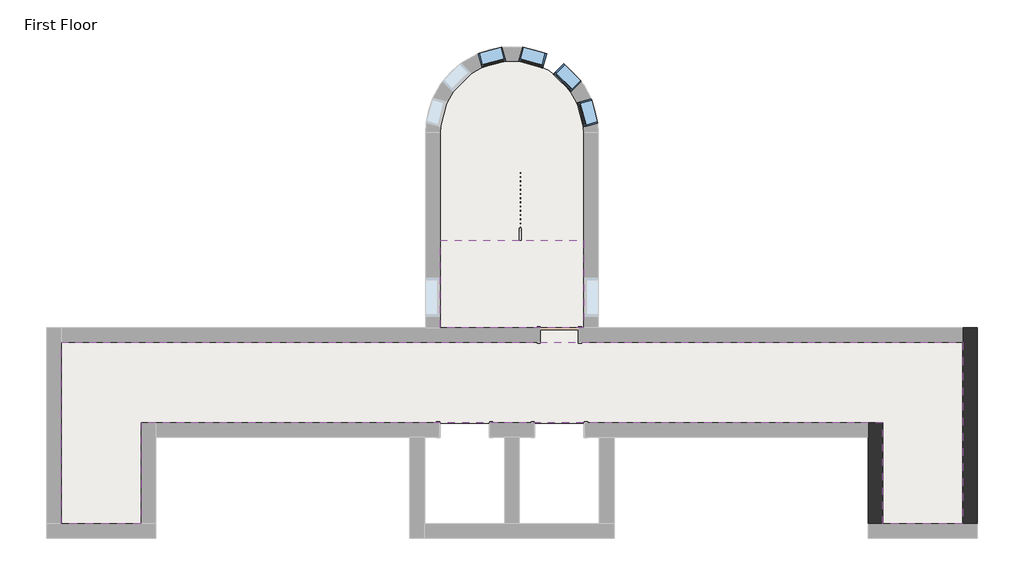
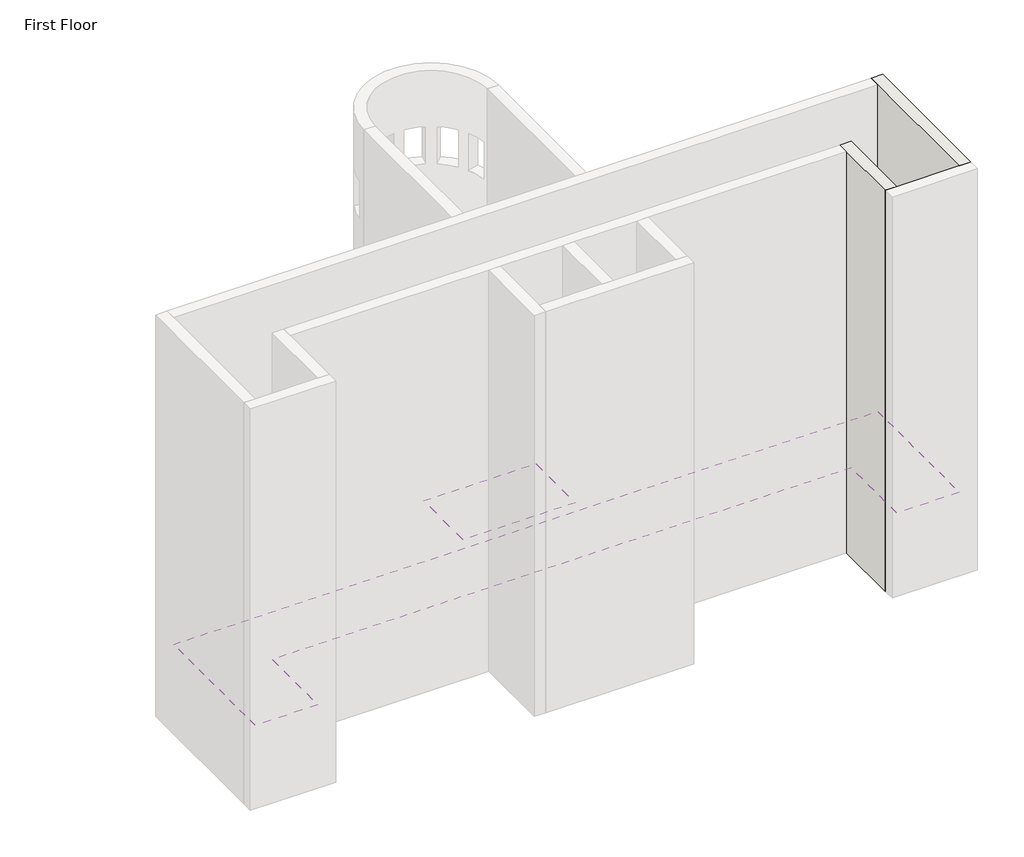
# One storey, part 3 of 5: 4 windows, 2 coverings, 2 walls, 1 slab.
"""IFC4 building model written with IfcOpenShell, lengths in millimetres."""

import ifcopenshell
import ifcopenshell.guid

model = None  # the IFC model being written
_history = None  # IfcOwnerHistory: only IFC2X3 demands one
_inside = {}  # id of a spatial element -> (the spatial element, [elements in it])
_under = {}  # id of a project, library or spatial element -> (it, [spatial elements below it])
_declared = {}  # id of a project -> (the project, [libraries it declares])
_typed = {}  # id of a type object -> (the type object, [elements of that type])
_made_of = {}  # id of a material, layer set ... -> (it, [elements and type objects made of it])


def new_model(schema):
    """Start an empty IFC model of exactly this schema.

    Asked for "IFC4X3", IfcOpenShell would pick the latest addendum, in which some entities
    have other attributes; the version numbers below select the first issue.
    IFC2X3 requires an IfcOwnerHistory on every rooted entity: one is made here for all.
    """
    global model, _history
    if schema == "IFC4X3":
        model = ifcopenshell.file(schema_version=(4, 3, 0, 0))
    else:
        model = ifcopenshell.file(schema=schema)
    _inside.clear()
    _under.clear()
    _declared.clear()
    _typed.clear()
    _made_of.clear()
    _history = None
    if model.schema == "IFC2X3":
        org = make("IfcOrganization", Name="unknown")
        user = make(
            "IfcPersonAndOrganization",
            ThePerson=make("IfcPerson", FamilyName="unknown"),
            TheOrganization=org,
        )
        app = make(
            "IfcApplication",
            ApplicationDeveloper=org,
            Version="unknown",
            ApplicationFullName="unknown",
            ApplicationIdentifier="unknown",
        )
        _history = make(
            "IfcOwnerHistory",
            OwningUser=user,
            OwningApplication=app,
            ChangeAction="ADDED",
            CreationDate=0,
        )
    return model


def make(cls, **values):
    """One entity of the class cls with the attributes given. An attribute that is None is left unset."""
    return model.create_entity(
        cls, **{name: value for name, value in values.items() if value is not None}
    )


def rooted(cls, **values):
    """An entity with a GlobalId (a new one), such as an element, a storey or a relation."""
    return make(cls, GlobalId=ifcopenshell.guid.new(), OwnerHistory=_history, **values)


def si_unit(unit_type, name, prefix=None):
    """IfcSIUnit, for example si_unit("LENGTHUNIT", "METRE", prefix="MILLI")."""
    return make("IfcSIUnit", UnitType=unit_type, Prefix=prefix, Name=name)


def assignment(units):
    """IfcUnitAssignment: the units of a project."""
    return None if units is None else make("IfcUnitAssignment", Units=units)


def point(xyz):
    """IfcCartesianPoint."""
    return None if xyz is None else make("IfcCartesianPoint", Coordinates=xyz)


def direction(xyz):
    """IfcDirection."""
    return None if xyz is None else make("IfcDirection", DirectionRatios=xyz)


def frame(location, z_axis=None, x_axis=None):
    """IfcAxis2Placement3D, a coordinate frame: its origin and axes. An axis left out is left unset."""
    return make(
        "IfcAxis2Placement3D",
        Location=point(location),
        Axis=direction(z_axis),
        RefDirection=direction(x_axis),
    )


def frame_2d(location, x_axis=None):
    """IfcAxis2Placement2D, a coordinate frame in the plane: its origin and x axis."""
    return make(
        "IfcAxis2Placement2D", Location=point(location), RefDirection=direction(x_axis)
    )


def origin():
    """The frame at (0, 0, 0) with its axes left unset."""
    return frame((0.0, 0.0, 0.0))


def place(relative_to, where):
    """IfcLocalPlacement: puts the frame where relative to a parent placement (None: the world)."""
    return make(
        "IfcLocalPlacement", PlacementRelTo=relative_to, RelativePlacement=where
    )


def context(
    kind, dimensions, precision=None, world=None, true_north=None, identifier=None
):
    """IfcGeometricRepresentationContext, for example the 3D "Model" context."""
    return make(
        "IfcGeometricRepresentationContext",
        ContextIdentifier=identifier,
        ContextType=kind,
        CoordinateSpaceDimension=dimensions,
        Precision=precision,
        WorldCoordinateSystem=world,
        TrueNorth=true_north,
    )


def project(units=None, contexts=None):
    """IfcProject with its units and contexts."""
    return rooted(
        "IfcProject",
        Name="project",
        RepresentationContexts=contexts,
        UnitsInContext=assignment(units),
    )


def spatial(cls, under=None, at=None, **own):
    """A site, building, storey or space (cls), placed at a placement, below another one or the project."""
    s = rooted(cls, ObjectPlacement=at, **own)
    if under is not None:
        _under.setdefault(under.id(), (under, []))[1].append(s)
    return s


def polyline(points):
    """IfcPolyline through the points."""
    return make("IfcPolyline", Points=[point(p) for p in points])


def circle_curve(where, radius):
    """IfcCircle in the frame where."""
    return make("IfcCircle", Position=where, Radius=radius)


def trimmed(basis, trim1, trim2, sense, master):
    """IfcTrimmedCurve: the piece of a basis curve between two trims."""
    return make(
        "IfcTrimmedCurve",
        BasisCurve=basis,
        Trim1=trim1,
        Trim2=trim2,
        SenseAgreement=sense,
        MasterRepresentation=master,
    )


def segment(curve, same_sense, transition):
    """IfcCompositeCurveSegment."""
    return make(
        "IfcCompositeCurveSegment",
        Transition=transition,
        SameSense=same_sense,
        ParentCurve=curve,
    )


def composite_curve(segments, self_intersect=None):
    """IfcCompositeCurve: segments joined end to end."""
    return make("IfcCompositeCurve", Segments=segments, SelfIntersect=self_intersect)


def outline(outer, holes=None, kind="AREA"):
    """IfcArbitraryClosedProfileDef: a profile drawn as a closed curve; with holes, ...WithVoids."""
    if holes is None:
        return make("IfcArbitraryClosedProfileDef", ProfileType=kind, OuterCurve=outer)
    return make(
        "IfcArbitraryProfileDefWithVoids",
        ProfileType=kind,
        OuterCurve=outer,
        InnerCurves=holes,
    )


def extrude(swept, where, along, depth):
    """IfcExtrudedAreaSolid: the profile swept, set in the frame where, extruded along a direction by depth."""
    return make(
        "IfcExtrudedAreaSolid",
        SweptArea=swept,
        Position=where,
        ExtrudedDirection=direction(along),
        Depth=depth,
    )


def faces_of(points, faces, orient=None, outer=None):
    """IfcFace entities. A face is a list of loops; a loop is a list of indices into points, from 0.

    orient and outer hold one flag for each loop. By default every Orientation is true, the
    first loop of a face is its IfcFaceOuterBound and the others are IfcFaceBound.
    """
    made = []
    for i, loops in enumerate(faces):
        bounds = []
        for j, loop in enumerate(loops):
            is_outer = j == 0 if outer is None else outer[i][j]
            bounds.append(
                make(
                    "IfcFaceOuterBound" if is_outer else "IfcFaceBound",
                    Bound=make("IfcPolyLoop", Polygon=[points[k] for k in loop]),
                    Orientation=True if orient is None else orient[i][j],
                )
            )
        made.append(make("IfcFace", Bounds=bounds))
    return made


def faceted_brep(points, faces, orient=None, outer=None, voids=None):
    """IfcFacetedBrep: a solid bounded by flat faces; with voids (closed shells), ...WithVoids."""
    shared = [point(p) for p in points]
    hull = make("IfcClosedShell", CfsFaces=faces_of(shared, faces, orient, outer))
    if voids is None:
        return make("IfcFacetedBrep", Outer=hull)
    return make(
        "IfcFacetedBrepWithVoids",
        Outer=hull,
        Voids=[
            make(cls, CfsFaces=faces_of(shared, fs, o, b)) for cls, fs, o, b in voids
        ],
    )


def shape(context_of_items, identifier, shape_type, items):
    """IfcShapeRepresentation: the items that make up one representation, for example the "Body"."""
    return make(
        "IfcShapeRepresentation",
        ContextOfItems=context_of_items,
        RepresentationIdentifier=identifier,
        RepresentationType=shape_type,
        Items=items,
    )


def source(mapping_origin, context_of_items, identifier, shape_type, items):
    """IfcRepresentationMap: a shape defined once, which mapped items show again and again."""
    return make(
        "IfcRepresentationMap",
        MappingOrigin=mapping_origin,
        MappedRepresentation=shape(context_of_items, identifier, shape_type, items),
    )


def transform(
    local_origin,
    x_axis=None,
    y_axis=None,
    z_axis=None,
    scale=None,
    scale2=None,
    scale3=None,
    uniform=True,
):
    """IfcCartesianTransformationOperator3D, or its non-uniform kind. x_axis, y_axis, z_axis: its Axis1, 2, 3."""
    if uniform:
        return make(
            "IfcCartesianTransformationOperator3D",
            Axis1=direction(x_axis),
            Axis2=direction(y_axis),
            LocalOrigin=point(local_origin),
            Scale=scale,
            Axis3=direction(z_axis),
        )
    return make(
        "IfcCartesianTransformationOperator3DnonUniform",
        Axis1=direction(x_axis),
        Axis2=direction(y_axis),
        LocalOrigin=point(local_origin),
        Scale=scale,
        Axis3=direction(z_axis),
        Scale2=scale2,
        Scale3=scale3,
    )


def mapped(mapping_source, mapping_target):
    """IfcMappedItem: shows the shape of a source again, moved by a transform."""
    return make(
        "IfcMappedItem", MappingSource=mapping_source, MappingTarget=mapping_target
    )


def made_of(thing, what):
    """Note that an element or type object is made of a material, layer set ...; save() writes the relation."""
    if what is not None:
        _made_of.setdefault(what.id(), (what, []))[1].append(thing)
    return thing


def element(
    cls,
    number,
    at=None,
    inside=None,
    cuts=None,
    type_object=None,
    material=None,
    context=None,
    identifier="Body",
    shape_type=None,
    held_by="IfcProductDefinitionShape",
    body=None,
    shapes=None,
    **own,
):
    """One element of the class cls, such as IfcWall. Its Tag is "e" and its number.

    at: its placement. inside: the storey or other place that contains it. cuts: it is an
    opening in that element (IfcRelVoidsElement). A single representation is given by context,
    identifier, shape_type and body (its items); several are given by shapes. held_by: the class
    of the entity that holds the representations. save() writes the other relations.
    """
    e = rooted(cls, Tag="e%d" % number, ObjectPlacement=at, **own)
    if body is not None:
        shapes = [shape(context, identifier, shape_type, body)]
    if shapes is not None:
        e.Representation = make(held_by, Representations=shapes)
    if inside is not None:
        _inside.setdefault(inside.id(), (inside, []))[1].append(e)
    if cuts is not None:
        rooted(
            "IfcRelVoidsElement", RelatingBuildingElement=cuts, RelatedOpeningElement=e
        )
    if type_object is not None:
        _typed.setdefault(type_object.id(), (type_object, []))[1].append(e)
    return made_of(e, material)


def aggregate(whole, parts):
    """IfcRelAggregates: a whole, such as a stair, and the parts it consists of."""
    return rooted("IfcRelAggregates", RelatingObject=whole, RelatedObjects=parts)


def save(model, path):
    """Write the relations noted so far, then the file.

    IfcRelAggregates (storeys below a building ...), IfcRelContainedInSpatialStructure (elements
    in a storey), IfcRelDefinesByType, IfcRelAssociatesMaterial and IfcRelDeclares: one each for
    every whole, place, type object, material and project.
    """
    for whole, parts in _under.values():
        aggregate(whole, parts)
    for where, things in _inside.values():
        rooted(
            "IfcRelContainedInSpatialStructure",
            RelatedElements=things,
            RelatingStructure=where,
        )
    for kind, things in _typed.values():
        rooted("IfcRelDefinesByType", RelatedObjects=things, RelatingType=kind)
    for what, things in _made_of.values():
        rooted("IfcRelAssociatesMaterial", RelatedObjects=things, RelatingMaterial=what)
    for by, libraries in _declared.values():
        rooted("IfcRelDeclares", RelatingContext=by, RelatedDefinitions=libraries)
    model.write(path)


def window_60baf983(model_context):
    return source(origin(), model_context, "Body", "SweptSolid", [
        extrude(outline(polyline([(203.2, 128.5875), (-279.4, 128.5875), (-279.4, 141.2875), (203.2, 141.2875), (203.2, 128.5875)])), frame((0.0, 0.0, 977.9), z_axis=(0.0, 0.0, 1.0), x_axis=(1.0, 0.0, 0.0)), (0.0, 0.0, 1.0), 1092.2),
        extrude(outline(polyline([(2114.55, -323.85), (933.45, -323.85), (933.45, 247.65), (2114.55, 247.65), (2114.55, -323.85)]), holes=[polyline([(2070.1, -279.4), (2070.1, 203.2), (977.9, 203.2), (977.9, -279.4), (2070.1, -279.4)])]), frame((0.0, 112.7125, 0.0), z_axis=(0.0, 1.0, 0.0), x_axis=(0.0, 0.0, 1.0)), (0.0, 0.0, 1.0), 44.45),
        extrude(outline(polyline([(2133.6, -342.9), (914.4, -342.9), (914.4, 266.7), (2133.6, 266.7), (2133.6, -342.9)]), holes=[polyline([(2101.85, -311.15), (2101.85, 234.95), (946.15, 234.95), (946.15, -311.15), (2101.85, -311.15)])]), frame((0.0, -176.2125, 0.0), z_axis=(0.0, 1.0, 0.0), x_axis=(0.0, 0.0, 1.0)), (0.0, 0.0, 1.0), 288.925),
        extrude(outline(polyline([(2133.6, 266.7), (2133.6, -342.9), (914.4, -342.9), (914.4, 266.7), (2133.6, 266.7)]), holes=[polyline([(2114.55, 247.65), (933.45, 247.65), (933.45, -323.85), (2114.55, -323.85), (2114.55, 247.65)])]), frame((0.0, 112.7125, 0.0), z_axis=(0.0, 1.0, 0.0), x_axis=(0.0, 0.0, 1.0)), (0.0, 0.0, 1.0), 63.5),
    ])


model = new_model("IFC4")

# Units and contexts
model_context = context("Model", 3, world=origin())
ifc_project = project(units=[si_unit("LENGTHUNIT", "METRE", prefix="MILLI")], contexts=[model_context])

# Site, building, storey
site = spatial("IfcSite", under=ifc_project)
building = spatial("IfcBuilding", under=site)
storey = spatial("IfcBuildingStorey", under=building, Name="First Floor", Elevation=0.0)

# Coverings
placement = place(None, origin())
element("IfcCovering", 1, ObjectType="GWB on Mtl. Stud", at=placement, inside=storey, context=model_context, shape_type="SweptSolid", body=[
    extrude(outline(polyline([(-4516.8274687, 4892.1883812), (-7974.4024687, 4892.1883812), (-7974.4024687, 7001.9758812), (-4516.8274687, 7001.9758812), (-4516.8274687, 4892.1883812)])), frame((0.0, 0.0, 2438.4), z_axis=(0.0, 0.0, 1.0), x_axis=(1.0, 0.0, 0.0)), (0.0, 0.0, 1.0), 107.95),
])
element("IfcCovering", 2, ObjectType="GWB on Mtl. Stud", at=placement, inside=storey, context=model_context, shape_type="SweptSolid", body=[
    extrude(outline(polyline([(2693.5975313, 167.7883812), (2693.5975313, 2606.1883812), (-15184.8274687, 2606.1883812), (-15184.8274687, 167.7883812), (-17118.4024687, 167.7883812), (-17118.4024687, 4539.7633812), (4627.1725313, 4539.7633812), (4627.1725313, 167.7883812), (2693.5975313, 167.7883812)])), frame((0.0, 0.0, 2438.4), z_axis=(0.0, 0.0, 1.0), x_axis=(1.0, 0.0, 0.0)), (0.0, 0.0, 1.0), 107.95),
])

# Slab
element("IfcSlab", 3, ObjectType="LW Concrete on Metal Deck", at=placement, inside=storey, context=model_context, shape_type="SweptSolid", body=[
    extrude(outline(composite_curve([segment(polyline([(-4504.1274687, 9592.7758812), (-4504.1274687, 4552.4633812), (4627.1725313, 4552.4633812), (4627.1725313, 167.7883812), (2680.8975313, 167.7883812), (2680.8975313, 2593.4883812), (-15172.1274687, 2593.4883812), (-15172.1274687, 167.7883812), (-17118.4024687, 167.7883812), (-17118.4024687, 4552.4633812), (-7987.1024687, 4552.4633812), (-7987.1024687, 9592.7758812)]), True, "CONTINUOUS"), segment(trimmed(circle_curve(frame_2d((-6245.6149687, 9592.7758812)), 1741.4875), [point((-7987.1024687, 9592.7758812))], [point((-4504.1274687, 9592.7758812))], False, "CARTESIAN"), True, "CONTINUOUS")], self_intersect=False)), frame((0.0, 0.0, -104.775), z_axis=(0.0, 0.0, 1.0), x_axis=(1.0, 0.0, 0.0)), (0.0, 0.0, 1.0), 104.775),
])

# Walls
element("IfcWall", 4, ObjectType="Exterior - Brick on Mtl. Stud", at=placement, inside=storey, context=model_context, shape_type="Brep", body=[
    faceted_brep([(2341.1725313, 2606.1883812, 0.0), (2341.1725313, 2253.7633812, 0.0), (2341.1725313, 167.7883812, 0.0), (2341.1725313, 167.7883812, 13106.4), (2341.1725313, 2253.7633812, 13106.4), (2341.1725313, 2606.1883812, 13106.4), (2693.5975313, 2606.1883812, 0.0), (2693.5975313, 2606.1883812, 13106.4), (2693.5975313, 167.7883812, 13106.4), (2693.5975313, 167.7883812, 0.0)], [[[0, 1, 2, 3, 4, 5]], [[6, 7, 8, 9]], [[2, 1, 0, 6, 9]], [[5, 4, 3, 8, 7]], [[0, 5, 7, 6]], [[3, 2, 9, 8]]]),
])
element("IfcWall", 5, ObjectType="Exterior - Brick on Mtl. Stud", at=placement, inside=storey, context=model_context, shape_type="Brep", body=[
    faceted_brep([(4979.5975313, 167.7883812, 0.0), (4979.5975313, 4892.1883812, 0.0), (4979.5975313, 4892.1883812, 13106.4), (4979.5975313, 167.7883812, 13106.4), (4627.1725313, 167.7883812, 0.0), (4627.1725313, 167.7883812, 13106.4), (4627.1725313, 4539.7633812, 13106.4), (4627.1725313, 4892.1883812, 13106.4), (4627.1725313, 4892.1883812, 0.0), (4627.1725313, 4539.7633812, 0.0)], [[[0, 1, 2, 3]], [[4, 5, 6, 7, 8, 9]], [[1, 0, 4, 9, 8]], [[3, 2, 7, 6, 5]], [[2, 1, 8, 7]], [[0, 3, 5, 4]]]),
])

# Windows
window_shape = window_60baf983(model_context)
element("IfcWindow", 6, ObjectType="Fixed : 24\" x 48\"", at=placement, inside=storey, context=model_context, shape_type="MappedRepresentation", body=[
    mapped(window_shape, transform((-6764.1450232, 11402.9164066, 0.0), x_axis=(-0.96671009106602, -0.25587418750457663, 0.0), y_axis=(0.25587418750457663, -0.96671009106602, 0.0), z_axis=(0.0, 0.0, 1.0))),
])
element("IfcWindow", 7, ObjectType="Fixed : 24\" x 48\"", at=placement, inside=storey, context=model_context, shape_type="MappedRepresentation", body=[
    mapped(window_shape, transform((-5789.6049059, 11419.6685878, 0.0), x_axis=(-0.9651325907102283, 0.2617614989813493, 0.0), y_axis=(-0.2617614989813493, -0.9651325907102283, 0.0), z_axis=(0.0, 0.0, 1.0))),
])
element("IfcWindow", 8, ObjectType="Fixed : 24\" x 48\"", at=placement, inside=storey, context=model_context, shape_type="MappedRepresentation", body=[
    mapped(window_shape, transform((-4937.2523166, 10946.9063437, 0.0), x_axis=(-0.7049485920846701, 0.7092584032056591, 0.0), y_axis=(-0.7092584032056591, -0.7049485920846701, 0.0), z_axis=(0.0, 0.0, 1.0))),
])
element("IfcWindow", 9, ObjectType="Fixed : 24\" x 48\"", at=placement, inside=storey, context=model_context, shape_type="MappedRepresentation", body=[
    mapped(window_shape, transform((-4435.4744434, 10111.3059357, 0.0), x_axis=(-0.25587418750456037, 0.9667100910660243, 0.0), y_axis=(-0.9667100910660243, -0.25587418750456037, 0.0), z_axis=(0.0, 0.0, 1.0))),
])

save(model, "model.ifc")
